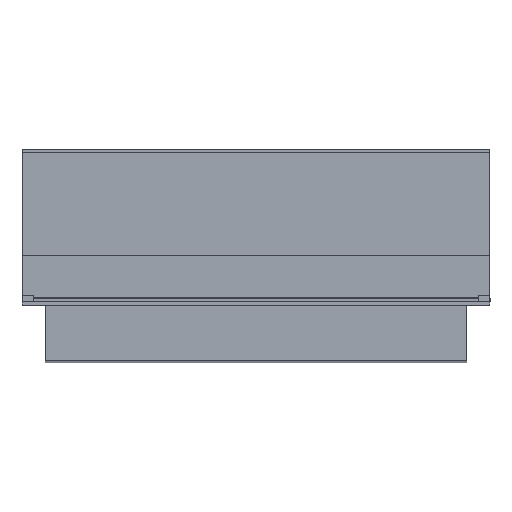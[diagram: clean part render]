
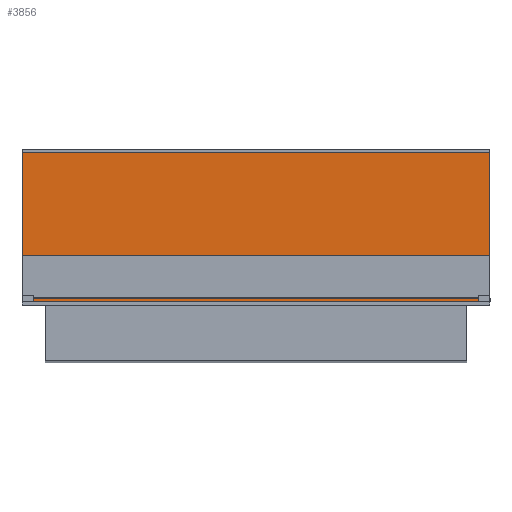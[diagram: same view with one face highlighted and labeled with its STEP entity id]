
A CAD part, top view. The second image highlights one B-rep face of the part: STEP entity #3856.
In plain terms, the highlighted planar face has unit normal (0, 0, 1).
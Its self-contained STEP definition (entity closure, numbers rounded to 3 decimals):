
#90 = AXIS2_PLACEMENT_3D ( 'NONE', #1041, #2536, #946 ) ;
#115 = CARTESIAN_POINT ( 'NONE',  ( 406.385, -203.917, -296.501 ) ) ;
#252 = VECTOR ( 'NONE', #2087, 1000. ) ;
#257 = VECTOR ( 'NONE', #4065, 1000. ) ;
#484 = ORIENTED_EDGE ( 'NONE', *, *, #1015, .T. ) ;
#569 = ORIENTED_EDGE ( 'NONE', *, *, #3942, .T. ) ;
#683 = FACE_OUTER_BOUND ( 'NONE', #1435, .T. ) ;
#744 = VERTEX_POINT ( 'NONE', #3756 ) ;
#794 = CARTESIAN_POINT ( 'NONE',  ( -793.615, -203.917, -296.501 ) ) ;
#826 = DIRECTION ( 'NONE',  ( 0., 1., 0. ) ) ;
#946 = DIRECTION ( 'NONE',  ( 1., 0., 0. ) ) ;
#1010 = CARTESIAN_POINT ( 'NONE',  ( -793.615, 196.083, -296.501 ) ) ;
#1015 = EDGE_CURVE ( 'NONE', #1113, #744, #3004, .T. ) ;
#1041 = CARTESIAN_POINT ( 'NONE',  ( -793.615, -203.917, -296.501 ) ) ;
#1113 = VERTEX_POINT ( 'NONE', #115 ) ;
#1427 = ORIENTED_EDGE ( 'NONE', *, *, #1507, .T. ) ;
#1435 = EDGE_LOOP ( 'NONE', ( #1451, #569, #484, #1427 ) ) ;
#1451 = ORIENTED_EDGE ( 'NONE', *, *, #1673, .T. ) ;
#1507 = EDGE_CURVE ( 'NONE', #744, #4516, #3251, .T. ) ;
#1673 = EDGE_CURVE ( 'NONE', #4516, #3384, #4697, .T. ) ;
#2071 = CARTESIAN_POINT ( 'NONE',  ( -793.615, 196.083, -296.501 ) ) ;
#2087 = DIRECTION ( 'NONE',  ( 0., -1., 0. ) ) ;
#2536 = DIRECTION ( 'NONE',  ( 0., 0., 1. ) ) ;
#2703 = VECTOR ( 'NONE', #4752, 1000. ) ;
#2808 = CARTESIAN_POINT ( 'NONE',  ( -793.615, 196.083, -296.501 ) ) ;
#3004 = LINE ( 'NONE', #4529, #3377 ) ;
#3251 = LINE ( 'NONE', #1010, #2703 ) ;
#3319 = CARTESIAN_POINT ( 'NONE',  ( -793.615, -203.917, -296.501 ) ) ;
#3377 = VECTOR ( 'NONE', #826, 1000. ) ;
#3383 = LINE ( 'NONE', #794, #257 ) ;
#3384 = VERTEX_POINT ( 'NONE', #3319 ) ;
#3756 = CARTESIAN_POINT ( 'NONE',  ( 406.385, 196.083, -296.501 ) ) ;
#3856 = ADVANCED_FACE ( 'NONE', ( #683 ), #4734, .T. ) ;
#3942 = EDGE_CURVE ( 'NONE', #3384, #1113, #3383, .T. ) ;
#4065 = DIRECTION ( 'NONE',  ( 1., 0., 0. ) ) ;
#4516 = VERTEX_POINT ( 'NONE', #2071 ) ;
#4529 = CARTESIAN_POINT ( 'NONE',  ( 406.385, 196.083, -296.501 ) ) ;
#4697 = LINE ( 'NONE', #2808, #252 ) ;
#4734 = PLANE ( 'NONE',  #90 ) ;
#4752 = DIRECTION ( 'NONE',  ( -1., 0., 0. ) ) ;
